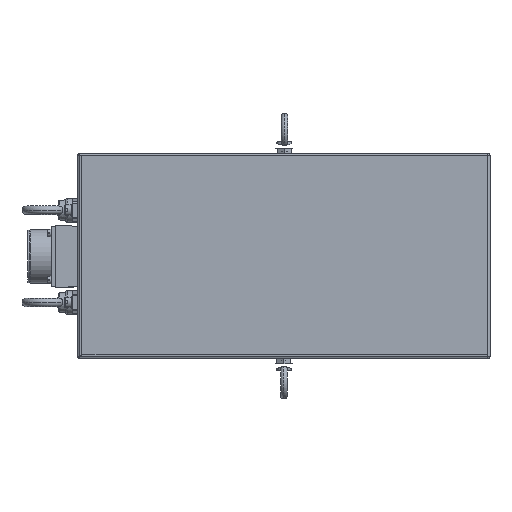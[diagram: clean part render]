
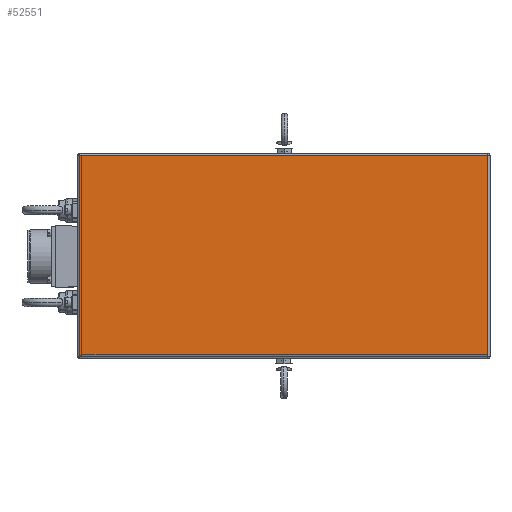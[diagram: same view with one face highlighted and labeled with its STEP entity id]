
A CAD part, top view. The second image highlights one B-rep face of the part: STEP entity #52551.
In plain terms, the highlighted planar face has unit normal (0, 0, 1).
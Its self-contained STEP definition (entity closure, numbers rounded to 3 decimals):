
#52512=CARTESIAN_POINT('',(-102.5,97.5,141.716));
#52513=DIRECTION('',(0.,1.,0.));
#52514=DIRECTION('',(0.,0.,1.));
#52515=AXIS2_PLACEMENT_3D('',#52512,#52514,#52513);
#52516=PLANE('',#52515);
#52517=CARTESIAN_POINT('',(90.,-95.,141.716));
#52518=VERTEX_POINT('',#52517);
#52519=CARTESIAN_POINT('',(90.,95.,141.716));
#52520=VERTEX_POINT('',#52519);
#52521=CARTESIAN_POINT('',(90.,-95.,141.716));
#52522=DIRECTION('',(0.,1.,0.));
#52523=VECTOR('',#52522,190.);
#52524=LINE('',#52521,#52523);
#52525=EDGE_CURVE('',#52518,#52520,#52524,.T.);
#52526=ORIENTED_EDGE('E7588',*,*,#52525,.T.);
#52527=CARTESIAN_POINT('',(-295.,95.,141.716));
#52528=VERTEX_POINT('',#52527);
#52529=CARTESIAN_POINT('',(90.,95.,141.716));
#52530=DIRECTION('',(-1.,0.,0.));
#52531=VECTOR('',#52530,385.);
#52532=LINE('',#52529,#52531);
#52533=EDGE_CURVE('',#52520,#52528,#52532,.T.);
#52534=ORIENTED_EDGE('E7589',*,*,#52533,.T.);
#52535=CARTESIAN_POINT('',(-295.,-95.,141.716));
#52536=VERTEX_POINT('',#52535);
#52537=CARTESIAN_POINT('',(-295.,95.,141.716));
#52538=DIRECTION('',(0.,-1.,0.));
#52539=VECTOR('',#52538,190.);
#52540=LINE('',#52537,#52539);
#52541=EDGE_CURVE('',#52528,#52536,#52540,.T.);
#52542=ORIENTED_EDGE('E7590',*,*,#52541,.T.);
#52543=CARTESIAN_POINT('',(-295.,-95.,141.716));
#52544=DIRECTION('',(1.,0.,0.));
#52545=VECTOR('',#52544,385.);
#52546=LINE('',#52543,#52545);
#52547=EDGE_CURVE('',#52536,#52518,#52546,.T.);
#52548=ORIENTED_EDGE('E7591',*,*,#52547,.T.);
#52549=EDGE_LOOP('',(#52526,#52534,#52542,#52548));
#52550=FACE_OUTER_BOUND('',#52549,.T.);
#52551=ADVANCED_FACE('F2990',(#52550),#52516,.T.);
